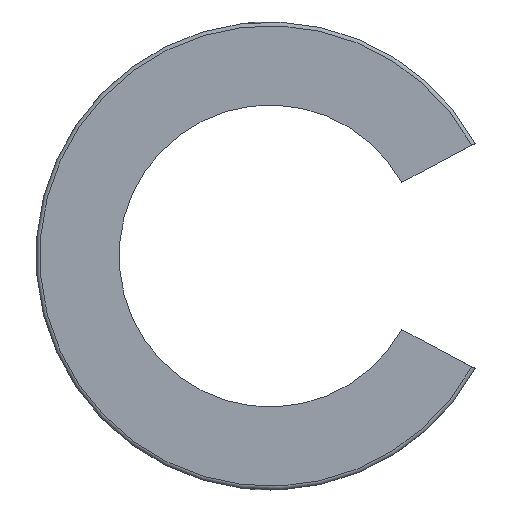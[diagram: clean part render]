
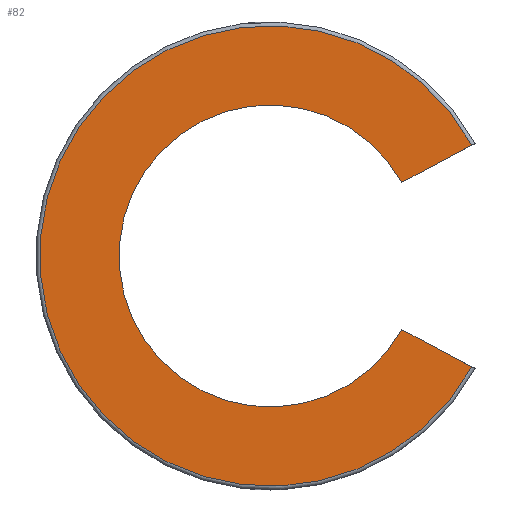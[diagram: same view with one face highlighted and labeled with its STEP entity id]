
A CAD part, left-side view. The second image highlights one B-rep face of the part: STEP entity #82.
In plain terms, the highlighted planar face has unit normal (-1, 0, 0).
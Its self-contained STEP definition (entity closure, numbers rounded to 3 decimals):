
#82=ADVANCED_FACE('',(#112),#113,.T.);
#112=FACE_OUTER_BOUND('',#156,.T.);
#113=PLANE('',#157);
#156=EDGE_LOOP('',(#245,#246,#247,#248));
#157=AXIS2_PLACEMENT_3D('',#249,#250,#251);
#245=ORIENTED_EDGE('',*,*,#352,.T.);
#246=ORIENTED_EDGE('',*,*,#365,.T.);
#247=ORIENTED_EDGE('',*,*,#366,.F.);
#248=ORIENTED_EDGE('',*,*,#349,.T.);
#249=CARTESIAN_POINT('',(-40.0,20.0,0.0));
#250=DIRECTION('',(-1.0,0.0,0.0));
#251=DIRECTION('',(0.0,0.0,1.0));
#349=EDGE_CURVE('',#383,#407,#409,.T.);
#352=EDGE_CURVE('',#407,#412,#414,.T.);
#365=EDGE_CURVE('',#412,#434,#435,.T.);
#366=EDGE_CURVE('',#383,#434,#436,.T.);
#383=VERTEX_POINT('',#461);
#407=VERTEX_POINT('',#501);
#409=LINE('',#508,#509);
#412=VERTEX_POINT('',#512);
#414=CIRCLE('',#519,30.5);
#434=VERTEX_POINT('',#644);
#435=LINE('',#645,#646);
#436=CIRCLE('',#647,20.0);
#461=CARTESIAN_POINT('',(-40.0,-17.462,9.75));
#501=CARTESIAN_POINT('',(-40.,-26.735,14.68));
#508=CARTESIAN_POINT('',(-40.0,15.785,-7.928));
#509=VECTOR('',#693,1.0);
#512=CARTESIAN_POINT('',(-40.,-26.735,-14.68));
#519=AXIS2_PLACEMENT_3D('',#697,#698,#699);
#644=CARTESIAN_POINT('',(-40.0,-17.462,-9.75));
#645=CARTESIAN_POINT('',(-40.0,15.785,7.928));
#646=VECTOR('',#720,1.0);
#647=AXIS2_PLACEMENT_3D('',#721,#722,#723);
#693=DIRECTION('',(0.0,-0.883,0.469));
#697=CARTESIAN_POINT('',(-40.0,0.0,0.0));
#698=DIRECTION('',(-1.0,0.0,0.0));
#699=DIRECTION('',(0.0,0.0,1.0));
#720=DIRECTION('',(0.0,0.883,0.469));
#721=CARTESIAN_POINT('',(-40.0,0.0,0.0));
#722=DIRECTION('',(-1.0,0.0,0.0));
#723=DIRECTION('',(0.0,0.0,1.0));
